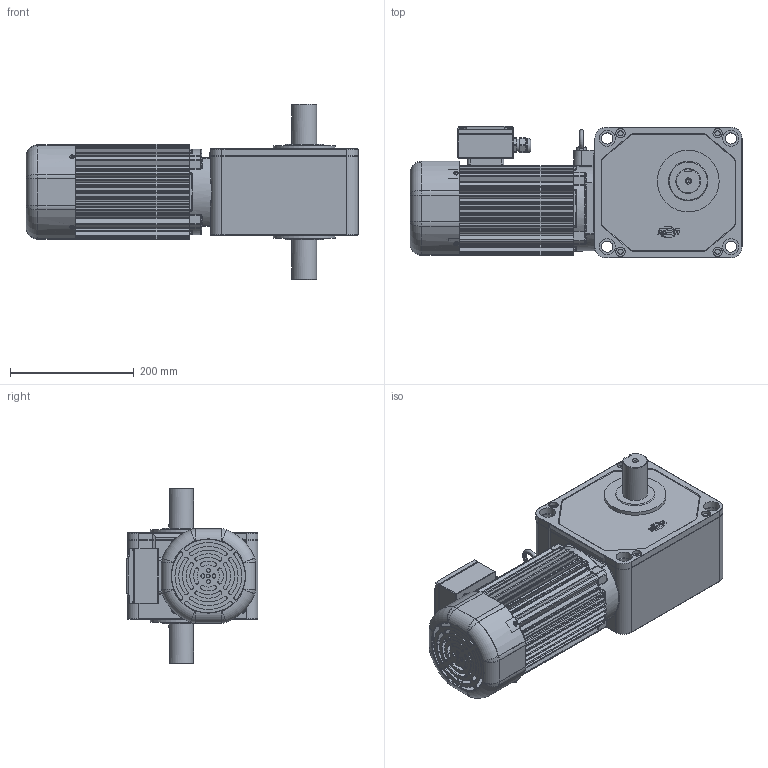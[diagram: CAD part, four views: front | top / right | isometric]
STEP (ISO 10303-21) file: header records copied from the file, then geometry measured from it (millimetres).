
FILE_DESCRIPTION(/* description */ (''),/* implementation_level */ '2;1');
FILE_NAME(/* name */ 'Z:\동력 3D 파일\PCS40B_0.75kW_Brake_3D.stp',/* time_stamp */ '2021-11-09T13:25:13+09:00',/* author */ ('jaebok'),/* organization */ (''),/* preprocessor_version */ 'ST-DEVELOPER v18.1',/* originating_system */ 'Autodesk Inventor 2022',/* authorisation */ '');
FILE_SCHEMA (('AUTOMOTIVE_DESIGN { 1 0 10303 214 3 1 1 }'));
Products named in the file (1): 부품68
Bounding box: 537 x 213 x 284 mm (x, y, z)
Volume: 4691294 mm3; surface area: 954590.1 mm2
Topology: 1 solids, 26 shells, 2062 faces, 5377 edges, 3377 vertices
Faces by surface type: plane 933, cylinder 794, bspline 136, torus 124, cone 59, sphere 16
Full cylindrical faces by diameter (mm): 3.25 x1, 3.6 x4, 4 x18, 5 x13, 6 x5, 6.647 x2, 7 x13, 8 x7, 8.5 x4, 10 x1, 12.5 x1, 15 x5, 18 x4, 20 x2, 20.6 x1, 21 x1, 23.6 x1, 25 x1, 26 x12, 40 x2, 64 x2, 73 x1, 85 x2, 90 x2, 100 x2, 119 x1, 122 x1, 125 x1, 128 x1, 131 x4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
Entity records: 69739 total; most frequent: CARTESIAN_POINT 16623, DIRECTION 11075, ORIENTED_EDGE 10660, EDGE_CURVE 5330, AXIS2_PLACEMENT_3D 4159, VERTEX_POINT 3369, LINE 2757, VECTOR 2757
